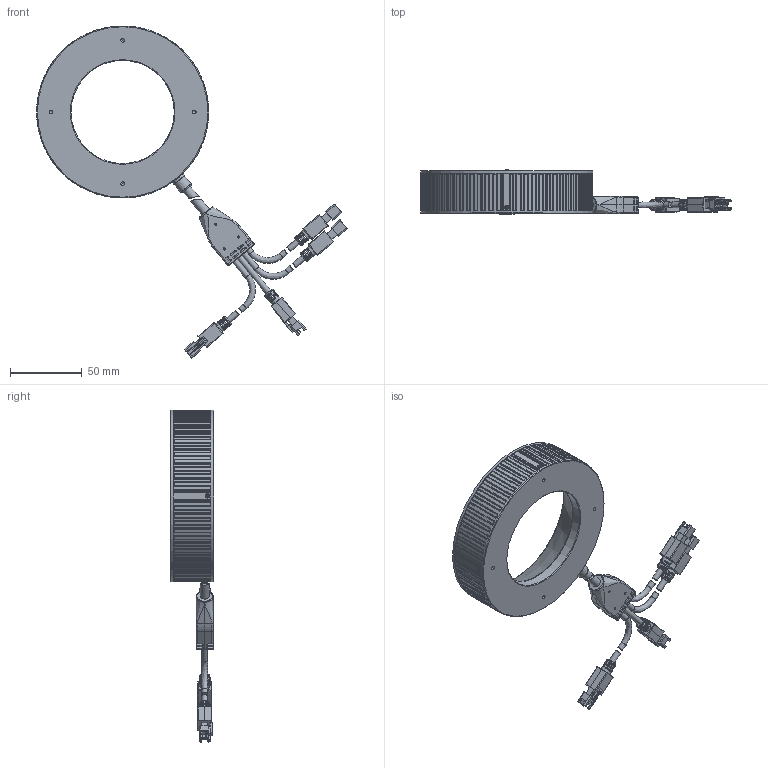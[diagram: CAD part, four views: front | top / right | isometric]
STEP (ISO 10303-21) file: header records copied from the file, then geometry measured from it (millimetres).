
FILE_DESCRIPTION (( 'STEP AP203' ), '1' );
FILE_NAME ('OPT-MSRI12060-X-V1.0U尨砩芞.STEP', '2025-02-15T03:43:07', ( '' ), ( '' ), 'SwSTEP 2.0', 'SolidWorks 2016', '' );
FILE_SCHEMA (( 'CONFIG_CONTROL_DESIGN' ));
Length unit declared in the file: millimetre
Products named in the file (1): OPT-MSRI12060-X-V1.0U尨砩芞
Bounding box: 216.77 x 30.5 x 231.68 mm (x, y, z)
Surface area: 79375.8 mm2 (no closed solid volume)
Topology: 0 solids, 29 shells, 1611 faces, 4575 edges, 2965 vertices
Faces by surface type: plane 810, cylinder 592, cone 133, bspline 58, torus 18
Full cylindrical faces by diameter (mm): 1.1 x4, 1.4 x4, 1.5 x3, 1.6 x4, 1.8 x4, 2 x4, 2.2 x4, 2.5 x4, 2.6 x4, 4.1 x10, 5 x1, 6.4 x2, 7.5 x4, 8.6 x1, 9.3 x1, 9.8 x1, 72 x1, 112 x1, 116 x1, 120 x2
Entity records: 59639 total; most frequent: CARTESIAN_POINT 20487, ORIENTED_EDGE 8417, DIRECTION 7329, EDGE_CURVE 4392, VERTEX_POINT 2911, AXIS2_PLACEMENT_3D 2486, VECTOR 2357, LINE 2357
